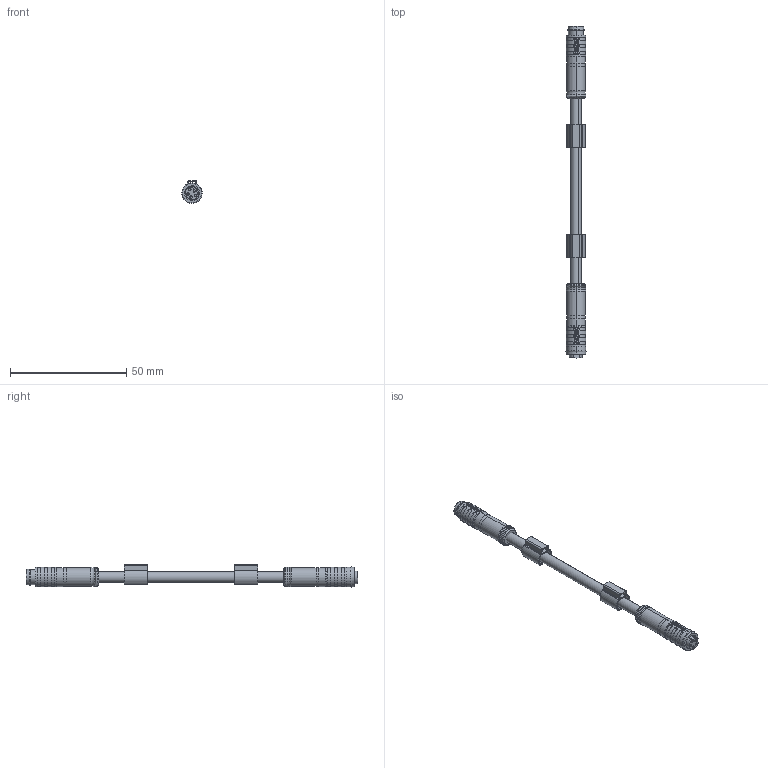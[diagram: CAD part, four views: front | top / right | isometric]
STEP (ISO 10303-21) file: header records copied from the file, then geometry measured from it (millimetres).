
FILE_DESCRIPTION (( 'STEP AP203' ), '1' );
FILE_NAME ('PKG4.5S-CABLE LENGTH-PSG4.5S_TEL.STEP', '2021-09-01T01:48:02', ( '' ), ( '' ), 'SwSTEP 2.0', 'SolidWorks 2019', '' );
FILE_SCHEMA (( 'CONFIG_CONTROL_DESIGN' ));
Length unit declared in the file: millimetre
Products named in the file (10): cable jacket D4.7; Cable with detail D4.7 (5 wires_strip outer jacket 15mm strip insulation 3mm); 8065089; 梓ワ杶; 8040967; PSG4.5S TUSA; PKG4.5S RSW TUSA; CM18_overmold_snap male OM Differences; CM18_overmold_snap OM Differences; PKG4.5S-CABLE LENGTH-PSG4.5S_TEL
Assembly tree (10 placements, depth 3):
  PKG4.5S-CABLE LENGTH-PSG4.5S_TEL
    Cable with detail D4.7 (5 wires_strip outer jacket 15mm strip insulation 3mm)
      cable jacket D4.7
    PKG4.5S RSW TUSA
      CM18_overmold_snap OM Differences
      8040967
    梓ワ杶  x2
    PSG4.5S TUSA
      8065089
      CM18_overmold_snap male OM Differences
Bounding box: 8.73 x 142.68 x 9.69 mm (x, y, z)
Volume: 4440 mm3; surface area: 7333.9 mm2
Topology: 12 solids, 12 shells, 904 faces, 2317 edges, 1469 vertices
Faces by surface type: cylinder 368, plane 322, bspline 78, torus 69, cone 67
Entity records: 28272 total; most frequent: CARTESIAN_POINT 6691, ORIENTED_EDGE 4298, DIRECTION 4273, EDGE_CURVE 2149, AXIS2_PLACEMENT_3D 1603, VERTEX_POINT 1377, LINE 1067, VECTOR 1067
